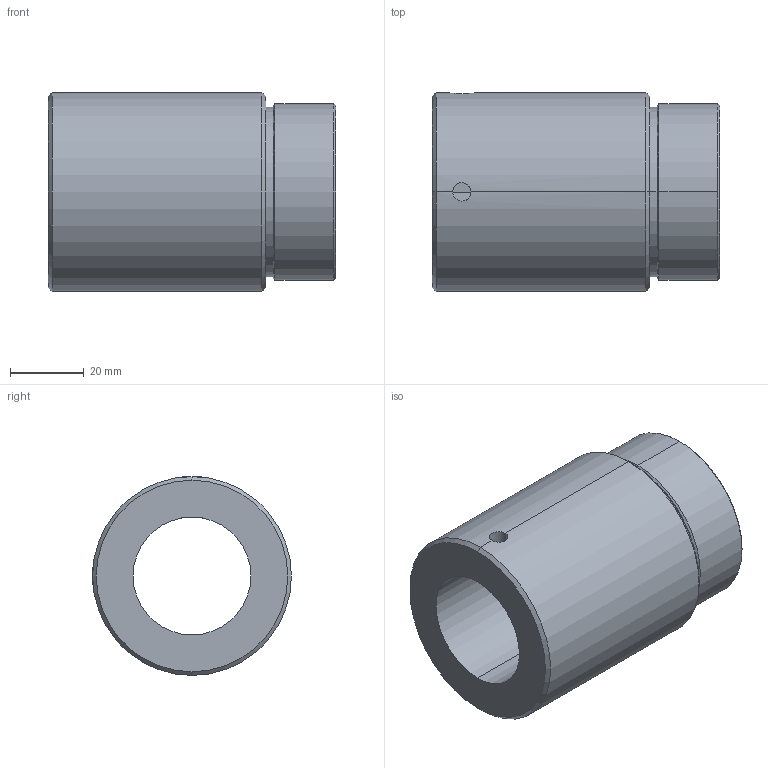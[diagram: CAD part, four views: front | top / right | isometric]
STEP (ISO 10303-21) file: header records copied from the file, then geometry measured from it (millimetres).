
FILE_DESCRIPTION (( 'STEP AP214' ), '1' );
FILE_NAME ('KGM-E-3210-RH.STEP', '2021-03-19T01:46:16', ( 'user' ), ( 'datathink' ), 'SwSTEP 2.0', 'SolidWorks 2013', '' );
FILE_SCHEMA (( 'AUTOMOTIVE_DESIGN' ));
Length unit declared in the file: millimetre
Products named in the file (1): KGM-E-3210-RH
Bounding box: 78 x 54 x 54 mm (x, y, z)
Volume: 105909.4 mm3; surface area: 23885.6 mm2
Topology: 1 solids, 1 shells, 25 faces, 54 edges, 32 vertices
Faces by surface type: cylinder 12, cone 8, plane 5
Entity records: 900 total; most frequent: CARTESIAN_POINT 304, DIRECTION 126, ORIENTED_EDGE 108, EDGE_CURVE 54, AXIS2_PLACEMENT_3D 52, VERTEX_POINT 32, EDGE_LOOP 30, CIRCLE 26
